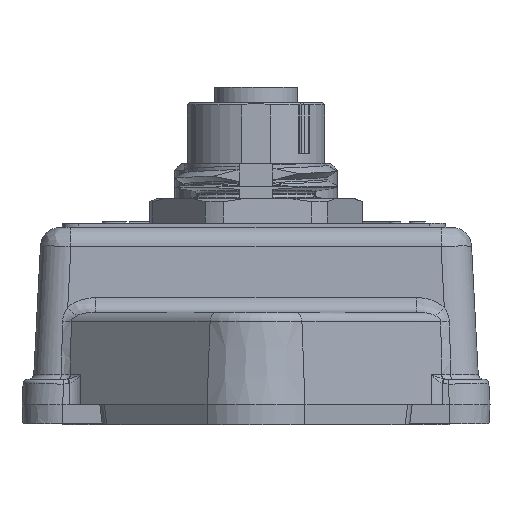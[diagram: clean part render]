
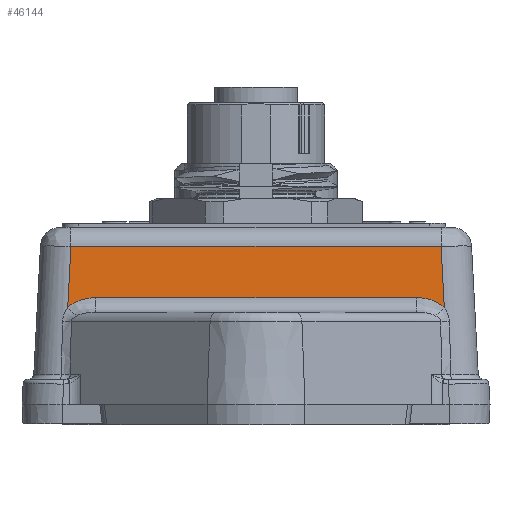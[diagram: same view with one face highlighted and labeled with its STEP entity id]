
A CAD part, left-side view. The second image highlights one B-rep face of the part: STEP entity #46144.
In plain terms, the highlighted planar face has unit normal (-0.999, 0, 0.052).
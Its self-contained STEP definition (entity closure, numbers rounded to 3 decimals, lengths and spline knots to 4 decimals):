
#431=ELLIPSE('',#48507,0.1396,0.0984);
#432=ELLIPSE('',#48511,0.1396,0.0984);
#3254=PLANE('',#48516);
#5267=FACE_OUTER_BOUND('',#7862,.T.);
#7862=EDGE_LOOP('',(#37195,#37196,#37197,#37198,#37199,#37200));
#11899=LINE('',#75442,#16203);
#11926=LINE('',#75561,#16230);
#11928=LINE('',#75654,#16232);
#11929=LINE('',#75655,#16233);
#16203=VECTOR('',#55966,0.3937);
#16230=VECTOR('',#56055,0.3937);
#16232=VECTOR('',#56071,0.3937);
#16233=VECTOR('',#56072,0.3937);
#21054=VERTEX_POINT('',#75436);
#21055=VERTEX_POINT('',#75441);
#21078=VERTEX_POINT('',#75554);
#21080=VERTEX_POINT('',#75559);
#21082=VERTEX_POINT('',#75584);
#21084=VERTEX_POINT('',#75653);
#26698=EDGE_CURVE('',#21054,#21055,#11899,.T.);
#26740=EDGE_CURVE('',#21078,#21054,#431,.T.);
#26742=EDGE_CURVE('',#21080,#21078,#11926,.T.);
#26745=EDGE_CURVE('',#21082,#21080,#432,.T.);
#26752=EDGE_CURVE('',#21084,#21082,#11928,.T.);
#26753=EDGE_CURVE('',#21055,#21084,#11929,.T.);
#37195=ORIENTED_EDGE('',*,*,#26740,.F.);
#37196=ORIENTED_EDGE('',*,*,#26742,.F.);
#37197=ORIENTED_EDGE('',*,*,#26745,.F.);
#37198=ORIENTED_EDGE('',*,*,#26752,.F.);
#37199=ORIENTED_EDGE('',*,*,#26753,.F.);
#37200=ORIENTED_EDGE('',*,*,#26698,.F.);
#46144=ADVANCED_FACE('',(#5267),#3254,.T.);
#48507=AXIS2_PLACEMENT_3D('',#75556,#56049,#56050);
#48511=AXIS2_PLACEMENT_3D('',#75586,#56059,#56060);
#48516=AXIS2_PLACEMENT_3D('',#75652,#56069,#56070);
#55966=DIRECTION('',(0.052,-0.052,0.997));
#56049=DIRECTION('center_axis',(-0.999,0.,
0.052));
#56050=DIRECTION('ref_axis',(0.003,0.999,0.052));
#56055=DIRECTION('',(0.,1.,0.));
#56059=DIRECTION('center_axis',(-0.999,0.,
0.052));
#56060=DIRECTION('ref_axis',(0.003,-0.999,0.052));
#56069=DIRECTION('center_axis',(-0.999,0.,
0.052));
#56070=DIRECTION('ref_axis',(0.,-1.,0.));
#56071=DIRECTION('',(-0.052,-0.052,-0.997));
#56072=DIRECTION('',(0.,-1.,0.));
#75436=CARTESIAN_POINT('',(-1.4493,0.7293,0.0677));
#75441=CARTESIAN_POINT('',(-1.4369,0.7169,0.3043));
#75442=CARTESIAN_POINT('',(-1.467,0.747,-0.2695));
#75554=CARTESIAN_POINT('',(-1.4473,0.6211,0.1059));
#75556=CARTESIAN_POINT('Origin',(-1.4524,0.6159,0.0075));
#75559=CARTESIAN_POINT('',(-1.4473,-0.6211,0.1059));
#75561=CARTESIAN_POINT('',(-1.4473,-0.4335,0.1059));
#75584=CARTESIAN_POINT('',(-1.4493,-0.7293,0.0677));
#75586=CARTESIAN_POINT('Origin',(-1.4524,-0.6159,0.0075));
#75652=CARTESIAN_POINT('Origin',(-1.469,-0.867,-0.3086));
#75653=CARTESIAN_POINT('',(-1.4369,-0.7169,0.3043));
#75654=CARTESIAN_POINT('',(-1.4653,-0.7454,-0.2382));
#75655=CARTESIAN_POINT('',(-1.4369,-0.4335,0.3043));
